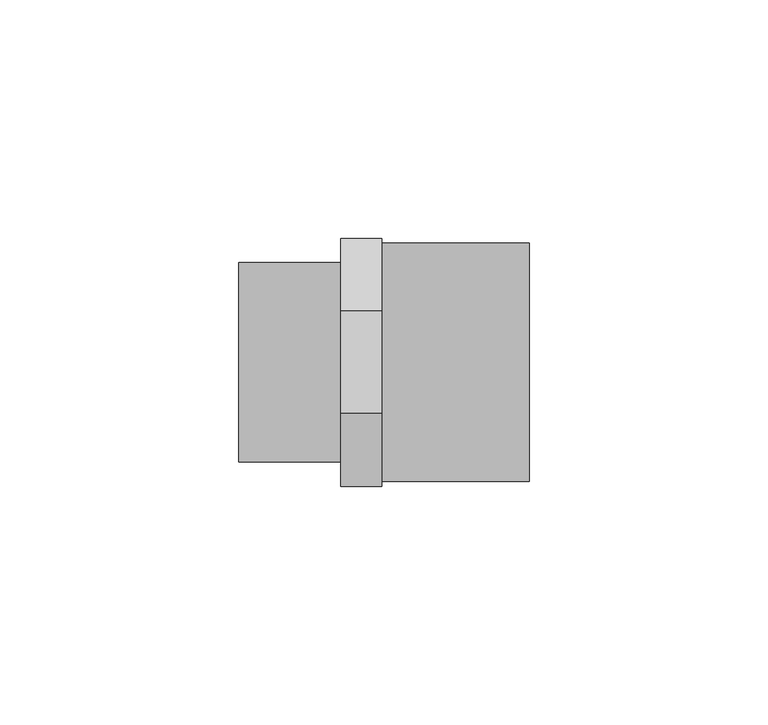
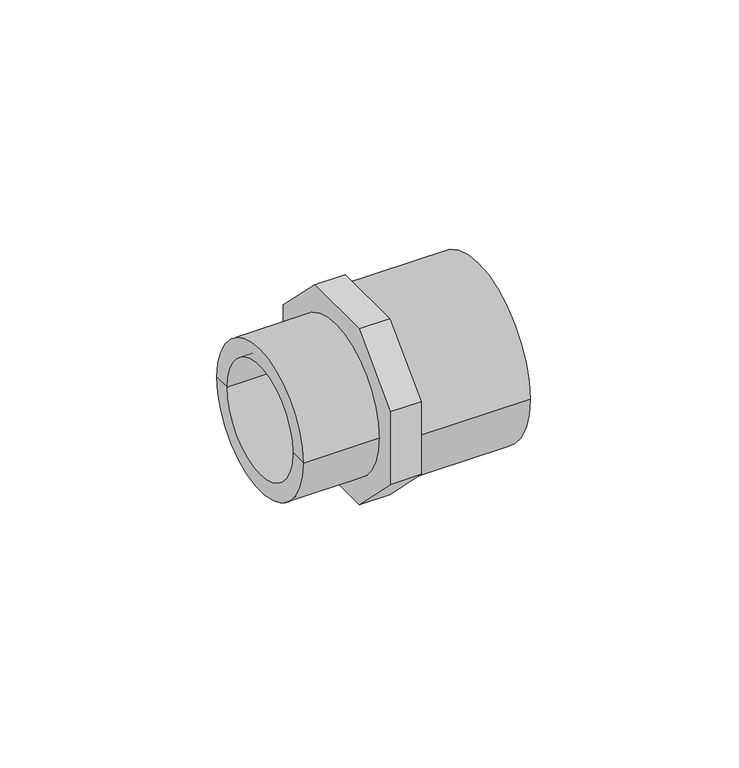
"""IFC4 building model written with IfcOpenShell, lengths in millimetres: pipe fitting geometry, Durapipe_PipeFitting_PVC_MaleThreadedAdaptors : 50 x 40 x G1-1⁄4."""

from ifc_helpers import new_model, si_unit, point, frame, origin, origin_2d, place, context, project, spatial, polyline, circle_curve, trimmed, segment, composite_curve, outline, extrude, source, transform, mapped, element, save
from ifc_brep_helpers import plane_surface, cylinder_surface, revolved_surface, advanced_brep


def pipe_fitting_222d3f3d(model_context):
    return source(origin(), model_context, "Body", "SolidModel", [
        extrude(outline(polyline([(26.0, 10.7695526), (26.0, -10.7695526), (10.7695526, -26.0), (-10.7695526, -26.0), (-26.0, -10.7695526), (-26.0, 10.7695526), (-10.7695526, 26.0), (10.7695526, 26.0), (26.0, 10.7695526)]), holes=[composite_curve([segment(trimmed(circle_curve(origin_2d(), 16.0), [point((16.0, 0.0))], [point((-16.0, 0.0))], True, "CARTESIAN"), True, "CONTINUOUS"), segment(trimmed(circle_curve(origin_2d(), 16.0), [point((-16.0, 0.0))], [point((16.0, 0.0))], True, "CARTESIAN"), True, "CONTINUOUS")], self_intersect=False)]), frame((-8.6, 0.0, 0.0), z_axis=(1.0, 0.0, 0.0), x_axis=(0.0, 1.0, 0.0)), (0.0, 0.0, 1.0), 8.6),
        advanced_brep(
        [(0.0, -25.0, 0.0), (0.0, 25.0, 0.0), (31.0, 25.0, 0.0), (31.0, -25.0, 0.0), (31.0, 20.0, 0.0), (31.0, -20.0, 0.0), (0.0, 0.0, 0.0), (5.0, 20.0, 0.0), (5.0, -20.0, 0.0), (5.0, 0.0, 0.0)],
        [
            (0, 1, circle_curve(frame((0.0, 0.0, 0.0), z_axis=(1.0, 0.0, 0.0), x_axis=(0.0, 1.0, 0.0)), 25.0)),
            (1, 2),
            (2, 3, circle_curve(frame((31.0, 0.0, 0.0), z_axis=(-1.0, 0.0, 0.0), x_axis=(0.0, 1.0, 0.0)), 25.0)),
            (3, 0),
            (1, 0, circle_curve(frame((0.0, 0.0, 0.0), z_axis=(1.0, 0.0, 0.0), x_axis=(0.0, 1.0, 0.0)), 25.0)),
            (3, 2, circle_curve(frame((31.0, 0.0, 0.0), z_axis=(-1.0, 0.0, 0.0), x_axis=(0.0, 1.0, 0.0)), 25.0)),
            (2, 4),
            (4, 5, circle_curve(frame((31.0, 0.0, 0.0), z_axis=(-1.0, 0.0, 0.0), x_axis=(0.0, 1.0, 0.0)), 20.0)),
            (5, 3),
            (5, 4, circle_curve(frame((31.0, 0.0, 0.0), z_axis=(-1.0, 0.0, 0.0), x_axis=(0.0, 1.0, 0.0)), 20.0)),
            (0, 6),
            (6, 1),
            (7, 8, circle_curve(frame((5.0, 0.0, 0.0), z_axis=(-1.0, 0.0, 0.0), x_axis=(0.0, 1.0, 0.0)), 20.0)),
            (8, 5),
            (4, 7),
            (8, 7, circle_curve(frame((5.0, 0.0, 0.0), z_axis=(-1.0, 0.0, 0.0), x_axis=(0.0, 1.0, 0.0)), 20.0)),
            (7, 9),
            (9, 8),
        ],
        [
            cylinder_surface(frame((432.4572068, 0.0, 0.0), z_axis=(-1.0, 0.0, 0.0), x_axis=(0.0, 1.0, 0.0)), 25.0),
            plane_surface(frame((31.0, 0.0, 0.0), z_axis=(1.0, 0.0, 0.0), x_axis=(0.0, 1.0, 0.0))),
            plane_surface(frame((0.0, 0.0, 0.0), z_axis=(-1.0, 0.0, 0.0), x_axis=(0.0, 1.0, 0.0))),
            revolved_surface(polyline([(5.0, 20.0, 0.0), (31.0, 20.0, 0.0)]), (44.5575137, 0.0, 0.0), (-1.0, 0.0, 0.0)),
            plane_surface(frame((5.0, 0.0, 0.0), z_axis=(1.0, 0.0, 0.0), x_axis=(0.0, 1.0, 0.0))),
        ],
        [
            (0, [[1, 2, 3, 4]]),
            (0, [[-2, 5, -4, 6]]),
            (1, [[-3, 7, 8, 9]]),
            (1, [[-6, -9, 10, -7]]),
            (2, [[-1, 11, 12]]),
            (2, [[-5, -12, -11]]),
            (3, [[13, 14, -8, 15]]),
            (3, [[16, -15, -10, -14]]),
            (4, [[-13, 17, 18]]),
            (4, [[-16, -18, -17]]),
        ],
    ),
        advanced_brep(
        [(-8.6, -16.0, 0.0), (-8.6, 16.0, 0.0), (-30.0, 16.0, 0.0), (-30.0, -16.0, 0.0), (-8.6, -20.95, 0.0), (-8.6, 20.95, 0.0), (-30.0, -20.95, 0.0), (-30.0, 20.95, 0.0)],
        [
            (0, 1, circle_curve(frame((-8.6, 0.0, 0.0), z_axis=(1.0, 0.0, 0.0), x_axis=(0.0, 1.0, 0.0)), 16.0)),
            (1, 2),
            (2, 3, circle_curve(frame((-30.0, 0.0, 0.0), z_axis=(-1.0, 0.0, 0.0), x_axis=(0.0, 1.0, 0.0)), 16.0)),
            (3, 0),
            (1, 0, circle_curve(frame((-8.6, 0.0, 0.0), z_axis=(1.0, 0.0, 0.0), x_axis=(0.0, 1.0, 0.0)), 16.0)),
            (3, 2, circle_curve(frame((-30.0, 0.0, 0.0), z_axis=(-1.0, 0.0, 0.0), x_axis=(0.0, 1.0, 0.0)), 16.0)),
            (4, 5, circle_curve(frame((-8.6, 0.0, 0.0), z_axis=(1.0, 0.0, 0.0), x_axis=(0.0, 1.0, 0.0)), 20.95)),
            (5, 1),
            (0, 4),
            (5, 4, circle_curve(frame((-8.6, 0.0, 0.0), z_axis=(1.0, 0.0, 0.0), x_axis=(0.0, 1.0, 0.0)), 20.95)),
            (6, 7, circle_curve(frame((-30.0, 0.0, 0.0), z_axis=(1.0, 0.0, 0.0), x_axis=(0.0, 1.0, 0.0)), 20.95)),
            (7, 5),
            (4, 6),
            (7, 6, circle_curve(frame((-30.0, 0.0, 0.0), z_axis=(1.0, 0.0, 0.0), x_axis=(0.0, 1.0, 0.0)), 20.95)),
            (2, 7),
            (6, 3),
        ],
        [
            revolved_surface(polyline([(-30.0, 16.0, 0.0), (-8.600000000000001, 16.0, 0.0)]), (-45.0, 0.0, 0.0), (-1.0, 0.0, 0.0)),
            plane_surface(frame((-8.6, 0.0, 0.0), z_axis=(1.0, 0.0, 0.0), x_axis=(0.0, 1.0, 0.0))),
            cylinder_surface(frame((-45.0, 0.0, 0.0), z_axis=(-1.0, 0.0, 0.0), x_axis=(0.0, 1.0, 0.0)), 20.95),
            plane_surface(frame((-30.0, 0.0, 0.0), z_axis=(-1.0, 0.0, 0.0), x_axis=(0.0, 1.0, 0.0))),
        ],
        [
            (0, [[1, 2, 3, 4]]),
            (0, [[5, -4, 6, -2]]),
            (1, [[7, 8, -1, 9]]),
            (1, [[10, -9, -5, -8]]),
            (2, [[11, 12, -7, 13]]),
            (2, [[14, -13, -10, -12]]),
            (3, [[-3, 15, -11, 16]]),
            (3, [[-6, -16, -14, -15]]),
        ],
    ),
    ])


if __name__ == "__main__":
    model = new_model("IFC4")
    model_context = context("Model", 3, world=origin())
    ifc_project = project(units=[si_unit("LENGTHUNIT", "METRE", prefix="MILLI")], contexts=[model_context])
    site = spatial("IfcSite", under=ifc_project)
    building = spatial("IfcBuilding", under=site)
    placement = place(None, origin())
    pipe_fitting_shape = pipe_fitting_222d3f3d(model_context)
    element("IfcPipeFitting", 1, ObjectType="Durapipe_PipeFitting_PVC_MaleThreadedAdaptors : 50 x 40 x G1-1⁄4", at=placement, inside=building, context=model_context, shape_type="MappedRepresentation", body=[
        mapped(pipe_fitting_shape, transform((0.0, 0.0, 0.0), x_axis=(1.0, 0.0, 0.0), y_axis=(0.0, 1.0, 0.0), z_axis=(0.0, 0.0, 1.0))),
    ])
    save(model, "model.ifc")
